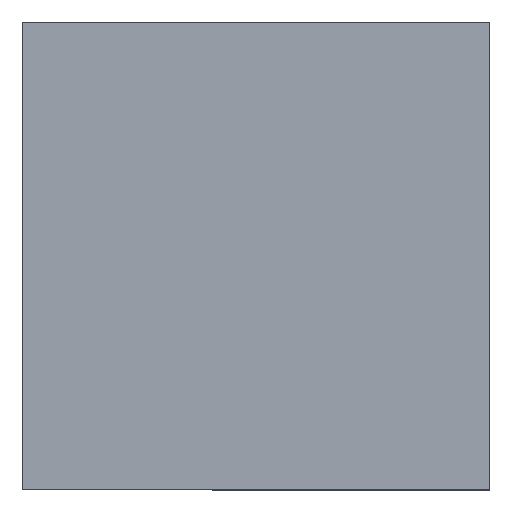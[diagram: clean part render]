
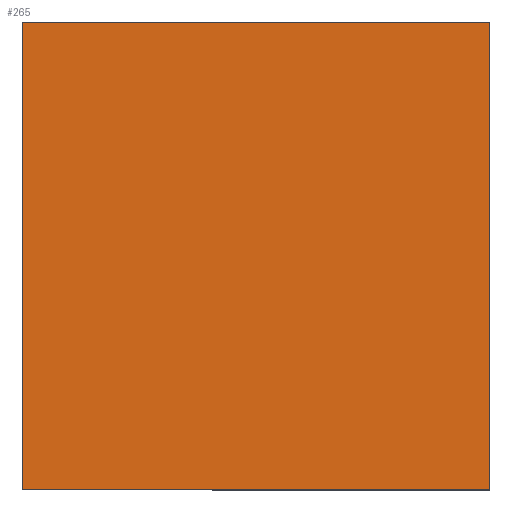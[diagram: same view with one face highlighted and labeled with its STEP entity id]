
A CAD part, top view. The second image highlights one B-rep face of the part: STEP entity #265.
In plain terms, the highlighted planar face has unit normal (0, 0, 1).
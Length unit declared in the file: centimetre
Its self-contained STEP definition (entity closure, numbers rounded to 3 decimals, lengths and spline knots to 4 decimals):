
#22 = VECTOR ( 'NONE', #102, 100. ) ;
#70 = VERTEX_POINT ( 'NONE', #77 ) ;
#71 = DIRECTION ( 'NONE',  ( 0., 0., 1. ) ) ;
#77 = CARTESIAN_POINT ( 'NONE',  ( 1000., 0., 1000. ) ) ;
#82 = VECTOR ( 'NONE', #388, 100. ) ;
#102 = DIRECTION ( 'NONE',  ( 1., 0., 0. ) ) ;
#103 = LINE ( 'NONE', #106, #82 ) ;
#106 = CARTESIAN_POINT ( 'NONE',  ( 0., 1000., 1000. ) ) ;
#118 = EDGE_CURVE ( 'NONE', #278, #70, #264, .T. ) ;
#127 = VECTOR ( 'NONE', #144, 100. ) ;
#129 = FACE_OUTER_BOUND ( 'NONE', #255, .T. ) ;
#141 = LINE ( 'NONE', #228, #216 ) ;
#144 = DIRECTION ( 'NONE',  ( -1., 0., 0. ) ) ;
#152 = EDGE_CURVE ( 'NONE', #375, #220, #378, .T. ) ;
#190 = CARTESIAN_POINT ( 'NONE',  ( 0., 1000., 1000. ) ) ;
#194 = ORIENTED_EDGE ( 'NONE', *, *, #118, .T. ) ;
#195 = CARTESIAN_POINT ( 'NONE',  ( 0., 0., 1000. ) ) ;
#216 = VECTOR ( 'NONE', #324, 100. ) ;
#220 = VERTEX_POINT ( 'NONE', #190 ) ;
#228 = CARTESIAN_POINT ( 'NONE',  ( 1000., 1000., 1000. ) ) ;
#230 = CARTESIAN_POINT ( 'NONE',  ( 0., 0., 1000. ) ) ;
#252 = CARTESIAN_POINT ( 'NONE',  ( 1000., 1000., 1000. ) ) ;
#255 = EDGE_LOOP ( 'NONE', ( #377, #194, #352, #341 ) ) ;
#259 = PLANE ( 'NONE',  #343 ) ;
#264 = LINE ( 'NONE', #230, #22 ) ;
#265 = ADVANCED_FACE ( 'NONE', ( #129 ), #259, .T. ) ;
#278 = VERTEX_POINT ( 'NONE', #362 ) ;
#315 = EDGE_CURVE ( 'NONE', #220, #278, #103, .T. ) ;
#319 = CARTESIAN_POINT ( 'NONE',  ( 0., 1000., 1000. ) ) ;
#324 = DIRECTION ( 'NONE',  ( 0., 1., 0. ) ) ;
#341 = ORIENTED_EDGE ( 'NONE', *, *, #152, .T. ) ;
#343 = AXIS2_PLACEMENT_3D ( 'NONE', #195, #71, #380 ) ;
#352 = ORIENTED_EDGE ( 'NONE', *, *, #394, .T. ) ;
#362 = CARTESIAN_POINT ( 'NONE',  ( 0., 0., 1000. ) ) ;
#375 = VERTEX_POINT ( 'NONE', #252 ) ;
#377 = ORIENTED_EDGE ( 'NONE', *, *, #315, .T. ) ;
#378 = LINE ( 'NONE', #319, #127 ) ;
#380 = DIRECTION ( 'NONE',  ( 1., 0., 0. ) ) ;
#388 = DIRECTION ( 'NONE',  ( 0., -1., 0. ) ) ;
#394 = EDGE_CURVE ( 'NONE', #70, #375, #141, .T. ) ;
